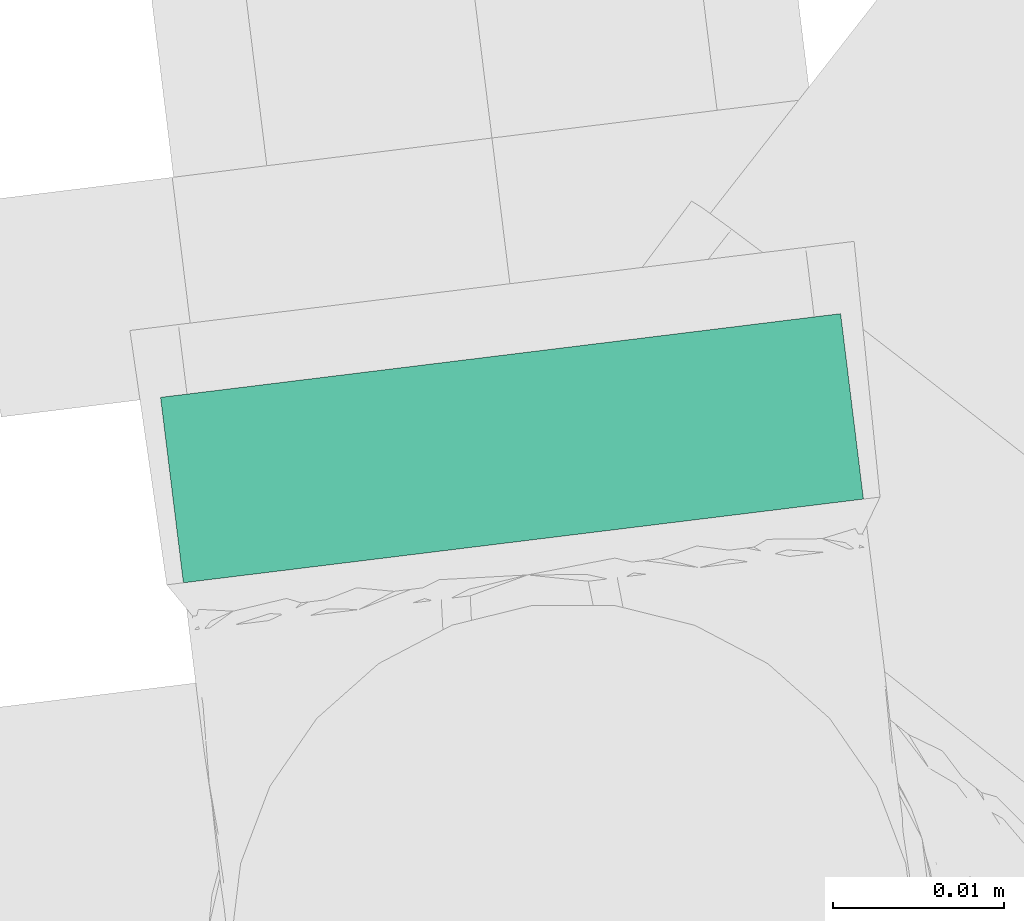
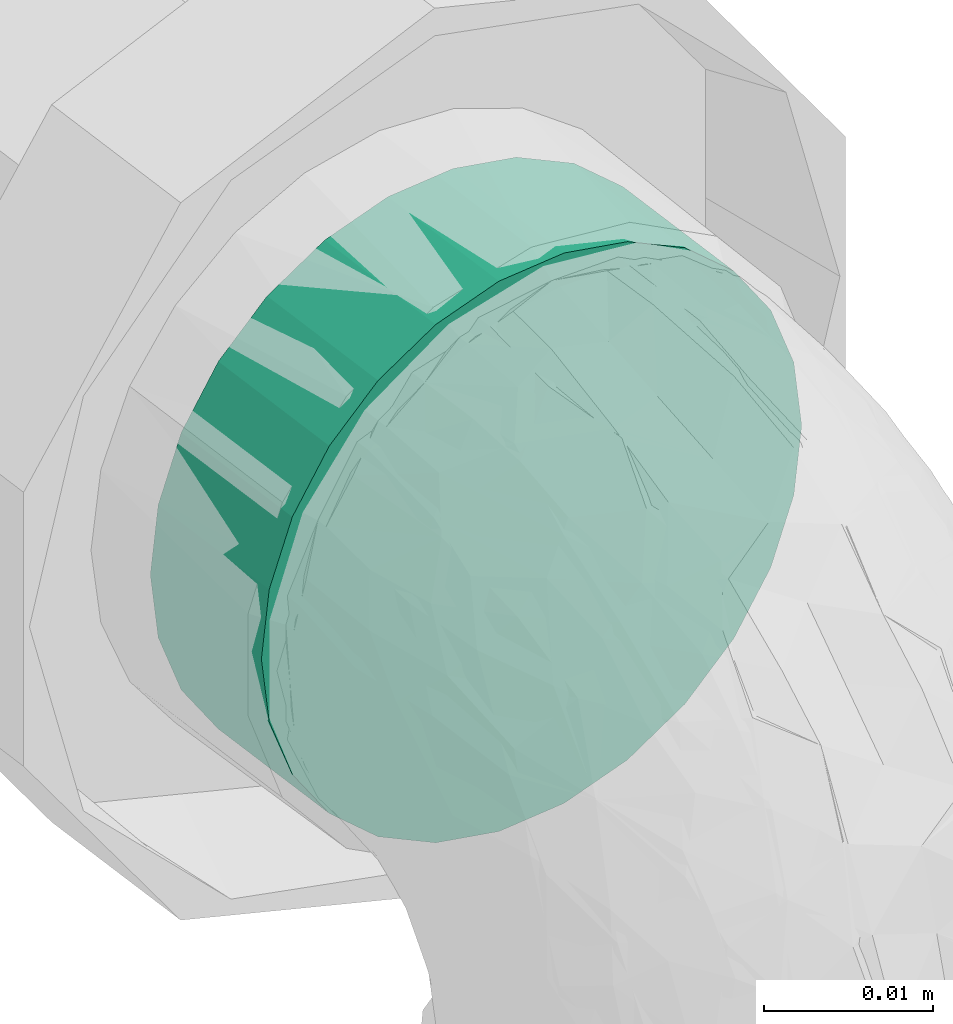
# One storey, part 86 of 97: 1 flow segment.
"""IFC2X3 building model written with IfcOpenShell, lengths in centimetres."""

from ifc_helpers import new_model, entity, si_unit, converted_unit, derived_unit, direction, frame, frame_2d, origin, place, context, subcontext, project, spatial, circle, extrude, type_object, element, save


model = new_model("IFC2X3")

# Units and contexts
model_context = context("Model", 3, precision=0.001, world=origin(), true_north=direction((6.12303176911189e-17, 1.0)))
body_context = subcontext(model_context, "Body", "Model", "MODEL_VIEW")
ifc_project = project(units=[si_unit("LENGTHUNIT", "METRE", prefix="CENTI"), si_unit("AREAUNIT", "SQUARE_METRE"), si_unit("VOLUMEUNIT", "CUBIC_METRE"), converted_unit("PLANEANGLEUNIT", "DEGREE", entity("IfcRatioMeasure", 0.0174532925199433), si_unit("PLANEANGLEUNIT", "RADIAN"), dimensions=[0, 0, 0, 0, 0, 0, 0]), si_unit("MASSUNIT", "GRAM", prefix="KILO"), derived_unit("MASSDENSITYUNIT", [(si_unit("MASSUNIT", "GRAM", prefix="KILO"), 1), (si_unit("LENGTHUNIT", "METRE"), -3)]), derived_unit("MOMENTOFINERTIAUNIT", [(si_unit("LENGTHUNIT", "METRE"), 4)]), si_unit("TIMEUNIT", "SECOND"), si_unit("FREQUENCYUNIT", "HERTZ"), si_unit("THERMODYNAMICTEMPERATUREUNIT", "DEGREE_CELSIUS"), derived_unit("THERMALTRANSMITTANCEUNIT", [(si_unit("MASSUNIT", "GRAM", prefix="KILO"), 1), (si_unit("THERMODYNAMICTEMPERATUREUNIT", "KELVIN"), -1), (si_unit("TIMEUNIT", "SECOND"), -3)]), derived_unit("VOLUMETRICFLOWRATEUNIT", [(si_unit("LENGTHUNIT", "METRE"), 3), (si_unit("TIMEUNIT", "SECOND"), -1)]), si_unit("ELECTRICCURRENTUNIT", "AMPERE"), si_unit("ELECTRICVOLTAGEUNIT", "VOLT"), si_unit("POWERUNIT", "WATT"), si_unit("FORCEUNIT", "NEWTON", prefix="KILO"), si_unit("ILLUMINANCEUNIT", "LUX"), si_unit("LUMINOUSFLUXUNIT", "LUMEN"), si_unit("LUMINOUSINTENSITYUNIT", "CANDELA"), derived_unit("USERDEFINED", [(si_unit("MASSUNIT", "GRAM", prefix="KILO"), -1), (si_unit("LENGTHUNIT", "METRE"), -2), (si_unit("TIMEUNIT", "SECOND"), 3), (si_unit("LUMINOUSFLUXUNIT", "LUMEN"), 1)]), derived_unit("LINEARVELOCITYUNIT", [(si_unit("LENGTHUNIT", "METRE"), 1), (si_unit("TIMEUNIT", "SECOND"), -1)]), si_unit("PRESSUREUNIT", "PASCAL"), derived_unit("USERDEFINED", [(si_unit("LENGTHUNIT", "METRE"), -2), (si_unit("MASSUNIT", "GRAM", prefix="KILO"), 1), (si_unit("TIMEUNIT", "SECOND"), -2)]), derived_unit("LINEARFORCEUNIT", [(si_unit("MASSUNIT", "GRAM", prefix="KILO"), 1), (si_unit("LENGTHUNIT", "METRE"), 1), (si_unit("TIMEUNIT", "SECOND"), -2), (si_unit("LENGTHUNIT", "METRE"), -1)]), derived_unit("PLANARFORCEUNIT", [(si_unit("MASSUNIT", "GRAM", prefix="KILO"), 1), (si_unit("LENGTHUNIT", "METRE"), 1), (si_unit("TIMEUNIT", "SECOND"), -2), (si_unit("LENGTHUNIT", "METRE"), -2)])], contexts=[model_context])

# Site, building, storey
site_placement = place(None, origin())
site = spatial("IfcSite", under=ifc_project, at=site_placement, Name="Default", CompositionType="ELEMENT")
building_placement = place(site_placement, origin())
building = spatial("IfcBuilding", under=site, at=building_placement, Name="HIDROSSANITÁRIO", CompositionType="ELEMENT")
storey_placement = place(building_placement, frame((0.0, 0.0, -260.0)))
storey = spatial("IfcBuildingStorey", under=building, at=storey_placement, Name="TÉRREO-HID", CompositionType="ELEMENT", Elevation=-260.0)

# Flow segment
pipe_segment_type = type_object("IfcPipeSegmentType", Name="Tipos de tubos:Tubo - Esgoto - Série Normal", PredefinedType="NOTDEFINED")
flow_segment_placement = place(storey_placement, origin())
element("IfcFlowSegment", 1, at=flow_segment_placement, inside=storey, type_object=pipe_segment_type, Name="Tipos de tubos:Tubo - Esgoto - Série Normal", ObjectType="Tipos de tubos:Tubo - Esgoto - Série Normal", context=body_context, shape_type="SweptSolid", body=[
    extrude(circle(Radius=2.0, at=frame_2d((0.0, 2.70716782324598e-14), x_axis=(1.0, 0.0))), frame((-1640.70543701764, 3155.79640254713, 50.0), z_axis=(-0.122152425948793, 0.992511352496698, 0.0), x_axis=(-0.992511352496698, -0.122152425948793, 0.0)), (0.0, 0.0, 1.0), 1.09067432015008),
])

save(model, "model.ifc")
